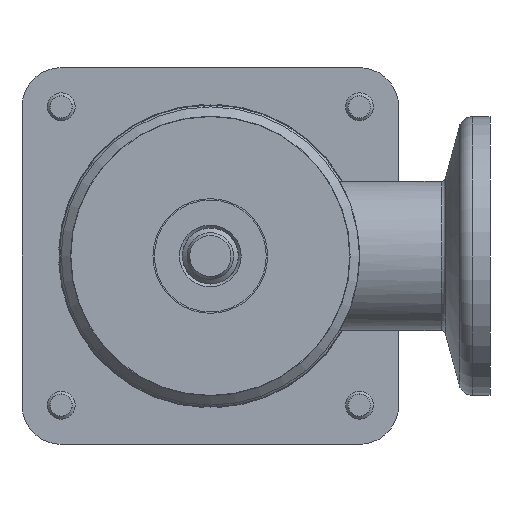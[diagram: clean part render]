
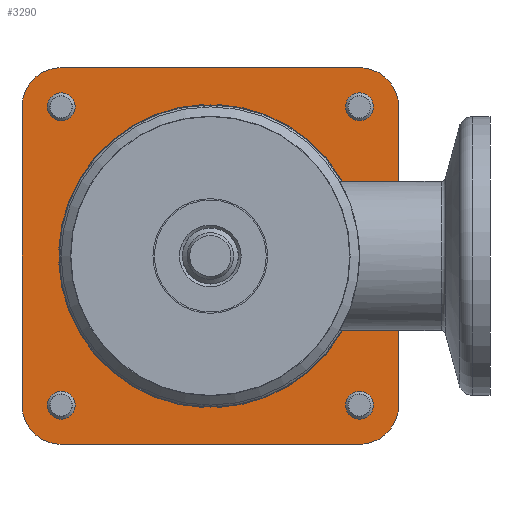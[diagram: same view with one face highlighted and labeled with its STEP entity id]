
A CAD part, front view. The second image highlights one B-rep face of the part: STEP entity #3290.
In plain terms, the highlighted planar face has unit normal (0, -1, 0) as drawn and (0, 1, 0) by its records, which use the part's own axes.
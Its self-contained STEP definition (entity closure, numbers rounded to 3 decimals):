
#1645=LINE('',#11788,#2192);
#1649=LINE('',#11797,#2196);
#1653=LINE('',#11809,#2200);
#1657=LINE('',#11818,#2204);
#1661=LINE('',#11830,#2208);
#1665=LINE('',#11839,#2212);
#1669=LINE('',#11851,#2216);
#1672=LINE('',#11867,#2219);
#1676=LINE('',#11877,#2223);
#1679=LINE('',#11885,#2226);
#1682=LINE('',#11893,#2229);
#1684=LINE('',#11898,#2231);
#2192=VECTOR('',#9681,1.);
#2196=VECTOR('',#9687,1.);
#2200=VECTOR('',#9699,1.);
#2204=VECTOR('',#9705,1.);
#2208=VECTOR('',#9717,1.);
#2212=VECTOR('',#9723,1.);
#2216=VECTOR('',#9735,1.);
#2219=VECTOR('',#9758,1.);
#2223=VECTOR('',#9768,1.);
#2226=VECTOR('',#9777,1.);
#2229=VECTOR('',#9786,1.);
#2231=VECTOR('',#9794,1.);
#3012=PLANE('',#8866);
#3290=ADVANCED_FACE('',(#3908,#3909,#3910,#3911,#3912,#3913),#3012,.T.);
#3908=FACE_BOUND('',#4307,.T.);
#3909=FACE_BOUND('',#4308,.T.);
#3910=FACE_BOUND('',#4309,.T.);
#3911=FACE_BOUND('',#4310,.T.);
#3912=FACE_BOUND('',#4311,.T.);
#3913=FACE_BOUND('',#4312,.T.);
#4307=EDGE_LOOP('',(#5035));
#4308=EDGE_LOOP('',(#5036));
#4309=EDGE_LOOP('',(#5037));
#4310=EDGE_LOOP('',(#5038));
#4311=EDGE_LOOP('',(#5039,#5040,#5041,#5042,#5043,#5044,#5045,#5046));
#4312=EDGE_LOOP('',(#5047,#5048,#5049,#5050,#5051,#5052,#5053,#5054,#5055,
#5056,#5057,#5058,#5059,#5060,#5061,#5062));
#5035=ORIENTED_EDGE('',*,*,#7567,.F.);
#5036=ORIENTED_EDGE('',*,*,#7568,.F.);
#5037=ORIENTED_EDGE('',*,*,#7569,.F.);
#5038=ORIENTED_EDGE('',*,*,#7570,.F.);
#5039=ORIENTED_EDGE('',*,*,#7550,.T.);
#5040=ORIENTED_EDGE('',*,*,#7553,.T.);
#5041=ORIENTED_EDGE('',*,*,#7555,.T.);
#5042=ORIENTED_EDGE('',*,*,#7557,.T.);
#5043=ORIENTED_EDGE('',*,*,#7559,.T.);
#5044=ORIENTED_EDGE('',*,*,#7561,.T.);
#5045=ORIENTED_EDGE('',*,*,#7563,.T.);
#5046=ORIENTED_EDGE('',*,*,#7564,.T.);
#5047=ORIENTED_EDGE('',*,*,#7506,.T.);
#5048=ORIENTED_EDGE('',*,*,#7509,.T.);
#5049=ORIENTED_EDGE('',*,*,#7548,.T.);
#5050=ORIENTED_EDGE('',*,*,#7513,.T.);
#5051=ORIENTED_EDGE('',*,*,#7516,.T.);
#5052=ORIENTED_EDGE('',*,*,#7519,.T.);
#5053=ORIENTED_EDGE('',*,*,#7546,.T.);
#5054=ORIENTED_EDGE('',*,*,#7523,.T.);
#5055=ORIENTED_EDGE('',*,*,#7526,.T.);
#5056=ORIENTED_EDGE('',*,*,#7529,.T.);
#5057=ORIENTED_EDGE('',*,*,#7544,.T.);
#5058=ORIENTED_EDGE('',*,*,#7533,.T.);
#5059=ORIENTED_EDGE('',*,*,#7536,.T.);
#5060=ORIENTED_EDGE('',*,*,#7539,.T.);
#5061=ORIENTED_EDGE('',*,*,#7542,.T.);
#5062=ORIENTED_EDGE('',*,*,#7566,.T.);
#6808=VERTEX_POINT('',#11776);
#6811=VERTEX_POINT('',#11781);
#6813=VERTEX_POINT('',#11787);
#6814=VERTEX_POINT('',#11791);
#6817=VERTEX_POINT('',#11796);
#6819=VERTEX_POINT('',#11802);
#6821=VERTEX_POINT('',#11808);
#6822=VERTEX_POINT('',#11812);
#6825=VERTEX_POINT('',#11817);
#6827=VERTEX_POINT('',#11823);
#6829=VERTEX_POINT('',#11829);
#6830=VERTEX_POINT('',#11833);
#6833=VERTEX_POINT('',#11838);
#6835=VERTEX_POINT('',#11844);
#6837=VERTEX_POINT('',#11850);
#6839=VERTEX_POINT('',#11856);
#6840=VERTEX_POINT('',#11866);
#6841=VERTEX_POINT('',#11868);
#6842=VERTEX_POINT('',#11872);
#6843=VERTEX_POINT('',#11876);
#6844=VERTEX_POINT('',#11880);
#6845=VERTEX_POINT('',#11884);
#6846=VERTEX_POINT('',#11888);
#6847=VERTEX_POINT('',#11892);
#6848=VERTEX_POINT('',#11901);
#6849=VERTEX_POINT('',#11903);
#6850=VERTEX_POINT('',#11905);
#6851=VERTEX_POINT('',#11907);
#7506=EDGE_CURVE('',#6808,#6811,#8449,.T.);
#7509=EDGE_CURVE('',#6811,#6813,#1645,.T.);
#7513=EDGE_CURVE('',#6814,#6817,#1649,.T.);
#7516=EDGE_CURVE('',#6817,#6819,#8451,.T.);
#7519=EDGE_CURVE('',#6819,#6821,#1653,.T.);
#7523=EDGE_CURVE('',#6822,#6825,#1657,.T.);
#7526=EDGE_CURVE('',#6825,#6827,#8453,.T.);
#7529=EDGE_CURVE('',#6827,#6829,#1661,.T.);
#7533=EDGE_CURVE('',#6830,#6833,#1665,.T.);
#7536=EDGE_CURVE('',#6833,#6835,#8455,.T.);
#7539=EDGE_CURVE('',#6835,#6837,#1669,.T.);
#7542=EDGE_CURVE('',#6837,#6839,#8457,.T.);
#7544=EDGE_CURVE('',#6829,#6830,#8459,.T.);
#7546=EDGE_CURVE('',#6821,#6822,#8461,.T.);
#7548=EDGE_CURVE('',#6813,#6814,#8463,.T.);
#7550=EDGE_CURVE('',#6841,#6840,#1672,.T.);
#7553=EDGE_CURVE('',#6840,#6842,#8464,.T.);
#7555=EDGE_CURVE('',#6842,#6843,#1676,.T.);
#7557=EDGE_CURVE('',#6843,#6844,#8465,.T.);
#7559=EDGE_CURVE('',#6844,#6845,#1679,.T.);
#7561=EDGE_CURVE('',#6845,#6846,#8466,.T.);
#7563=EDGE_CURVE('',#6846,#6847,#1682,.T.);
#7564=EDGE_CURVE('',#6847,#6841,#8467,.T.);
#7566=EDGE_CURVE('',#6839,#6808,#1684,.T.);
#7567=EDGE_CURVE('',#6848,#6848,#8468,.T.);
#7568=EDGE_CURVE('',#6849,#6849,#8469,.T.);
#7569=EDGE_CURVE('',#6850,#6850,#8470,.T.);
#7570=EDGE_CURVE('',#6851,#6851,#8471,.T.);
#8449=CIRCLE('',#8822,16.1);
#8451=CIRCLE('',#8827,16.1);
#8453=CIRCLE('',#8832,16.1);
#8455=CIRCLE('',#8837,16.1);
#8457=CIRCLE('',#8841,16.275);
#8459=CIRCLE('',#8843,16.275);
#8461=CIRCLE('',#8845,16.275);
#8463=CIRCLE('',#8847,16.275);
#8464=CIRCLE('',#8850,4.2);
#8465=CIRCLE('',#8853,4.2);
#8466=CIRCLE('',#8856,4.2);
#8467=CIRCLE('',#8859,4.2);
#8468=CIRCLE('',#8862,1.5);
#8469=CIRCLE('',#8863,1.5);
#8470=CIRCLE('',#8864,1.5);
#8471=CIRCLE('',#8865,1.5);
#8822=AXIS2_PLACEMENT_3D('',#11782,#9675,#9676);
#8827=AXIS2_PLACEMENT_3D('',#11803,#9693,#9694);
#8832=AXIS2_PLACEMENT_3D('',#11824,#9711,#9712);
#8837=AXIS2_PLACEMENT_3D('',#11845,#9729,#9730);
#8841=AXIS2_PLACEMENT_3D('',#11857,#9741,#9742);
#8843=AXIS2_PLACEMENT_3D('',#11859,#9745,#9746);
#8845=AXIS2_PLACEMENT_3D('',#11861,#9749,#9750);
#8847=AXIS2_PLACEMENT_3D('',#11863,#9753,#9754);
#8850=AXIS2_PLACEMENT_3D('',#11873,#9763,#9764);
#8853=AXIS2_PLACEMENT_3D('',#11881,#9772,#9773);
#8856=AXIS2_PLACEMENT_3D('',#11889,#9781,#9782);
#8859=AXIS2_PLACEMENT_3D('',#11895,#9789,#9790);
#8862=AXIS2_PLACEMENT_3D('',#11900,#9797,#9798);
#8863=AXIS2_PLACEMENT_3D('',#11902,#9799,#9800);
#8864=AXIS2_PLACEMENT_3D('',#11904,#9801,#9802);
#8865=AXIS2_PLACEMENT_3D('',#11906,#9803,#9804);
#8866=AXIS2_PLACEMENT_3D('',#11908,#9805,#9806);
#9675=DIRECTION('',(0.,-1.,0.));
#9676=DIRECTION('',(0.,0.,1.));
#9681=DIRECTION('',(0.,0.,1.));
#9687=DIRECTION('',(1.,0.,0.));
#9693=DIRECTION('',(0.,-1.,0.));
#9694=DIRECTION('',(0.,0.,1.));
#9699=DIRECTION('',(-1.,0.,0.));
#9705=DIRECTION('',(0.,0.,1.));
#9711=DIRECTION('',(0.,-1.,0.));
#9712=DIRECTION('',(0.,0.,1.));
#9717=DIRECTION('',(0.,0.,-1.));
#9723=DIRECTION('',(-1.,0.,0.));
#9729=DIRECTION('',(0.,-1.,0.));
#9730=DIRECTION('',(0.,0.,1.));
#9735=DIRECTION('',(1.,0.,0.));
#9741=DIRECTION('',(0.,-1.,0.));
#9742=DIRECTION('',(0.,0.,1.));
#9745=DIRECTION('',(0.,-1.,0.));
#9746=DIRECTION('',(0.,0.,1.));
#9749=DIRECTION('',(0.,-1.,0.));
#9750=DIRECTION('',(0.,0.,1.));
#9753=DIRECTION('',(0.,-1.,0.));
#9754=DIRECTION('',(0.,0.,1.));
#9758=DIRECTION('',(0.,0.,-1.));
#9763=DIRECTION('',(0.,1.,0.));
#9764=DIRECTION('',(1.,0.,0.));
#9768=DIRECTION('',(-1.,0.,0.));
#9772=DIRECTION('',(0.,1.,0.));
#9773=DIRECTION('',(0.,0.,-1.));
#9777=DIRECTION('',(0.,0.,1.));
#9781=DIRECTION('',(0.,1.,0.));
#9782=DIRECTION('',(-1.,0.,0.));
#9786=DIRECTION('',(1.,0.,0.));
#9789=DIRECTION('',(0.,1.,0.));
#9790=DIRECTION('',(0.,0.,1.));
#9794=DIRECTION('',(0.,0.,-1.));
#9797=DIRECTION('',(0.,1.,0.));
#9798=DIRECTION('',(-1.,0.,0.));
#9799=DIRECTION('',(0.,1.,0.));
#9800=DIRECTION('',(-1.,0.,0.));
#9801=DIRECTION('',(0.,1.,0.));
#9802=DIRECTION('',(-1.,0.,0.));
#9803=DIRECTION('',(0.,1.,0.));
#9804=DIRECTION('',(-1.,0.,0.));
#9805=DIRECTION('',(0.,1.,0.));
#9806=DIRECTION('',(0.,0.,1.));
#11776=CARTESIAN_POINT('',(0.75,6.,16.083));
#11781=CARTESIAN_POINT('',(-0.75,6.,16.083));
#11782=CARTESIAN_POINT('',(0.,6.,0.));
#11787=CARTESIAN_POINT('',(-0.75,6.,16.258));
#11788=CARTESIAN_POINT('',(-0.75,6.,16.083));
#11791=CARTESIAN_POINT('',(-16.258,6.,0.75));
#11796=CARTESIAN_POINT('',(-16.083,6.,0.75));
#11797=CARTESIAN_POINT('',(-16.258,6.,0.75));
#11802=CARTESIAN_POINT('',(-16.083,6.,-0.75));
#11803=CARTESIAN_POINT('',(0.,6.,0.));
#11808=CARTESIAN_POINT('',(-16.258,6.,-0.75));
#11809=CARTESIAN_POINT('',(-16.083,6.,-0.75));
#11812=CARTESIAN_POINT('',(-0.75,6.,-16.258));
#11817=CARTESIAN_POINT('',(-0.75,6.,-16.083));
#11818=CARTESIAN_POINT('',(-0.75,6.,-16.258));
#11823=CARTESIAN_POINT('',(0.75,6.,-16.083));
#11824=CARTESIAN_POINT('',(0.,6.,0.));
#11829=CARTESIAN_POINT('',(0.75,6.,-16.258));
#11830=CARTESIAN_POINT('',(0.75,6.,-16.083));
#11833=CARTESIAN_POINT('',(16.258,6.,-0.75));
#11838=CARTESIAN_POINT('',(16.083,6.,-0.75));
#11839=CARTESIAN_POINT('',(16.258,6.,-0.75));
#11844=CARTESIAN_POINT('',(16.083,6.,0.75));
#11845=CARTESIAN_POINT('',(0.,6.,0.));
#11850=CARTESIAN_POINT('',(16.258,6.,0.75));
#11851=CARTESIAN_POINT('',(16.083,6.,0.75));
#11856=CARTESIAN_POINT('',(0.75,6.,16.258));
#11857=CARTESIAN_POINT('',(0.,6.,0.));
#11859=CARTESIAN_POINT('',(0.,6.,0.));
#11861=CARTESIAN_POINT('',(0.,6.,0.));
#11863=CARTESIAN_POINT('',(0.,6.,0.));
#11866=CARTESIAN_POINT('',(20.2,6.,-16.));
#11867=CARTESIAN_POINT('',(20.2,6.,16.));
#11868=CARTESIAN_POINT('',(20.2,6.,16.));
#11872=CARTESIAN_POINT('',(16.,6.,-20.2));
#11873=CARTESIAN_POINT('',(16.,6.,-16.));
#11876=CARTESIAN_POINT('',(-16.,6.,-20.2));
#11877=CARTESIAN_POINT('',(16.,6.,-20.2));
#11880=CARTESIAN_POINT('',(-20.2,6.,-16.));
#11881=CARTESIAN_POINT('',(-16.,6.,-16.));
#11884=CARTESIAN_POINT('',(-20.2,6.,16.));
#11885=CARTESIAN_POINT('',(-20.2,6.,-16.));
#11888=CARTESIAN_POINT('',(-16.,6.,20.2));
#11889=CARTESIAN_POINT('',(-16.,6.,16.));
#11892=CARTESIAN_POINT('',(16.,6.,20.2));
#11893=CARTESIAN_POINT('',(-16.,6.,20.2));
#11895=CARTESIAN_POINT('',(16.,6.,16.));
#11898=CARTESIAN_POINT('',(0.75,6.,16.258));
#11900=CARTESIAN_POINT('',(-16.,6.,16.));
#11901=CARTESIAN_POINT('',(-17.5,6.,16.));
#11902=CARTESIAN_POINT('',(16.,6.,-16.));
#11903=CARTESIAN_POINT('',(14.5,6.,-16.));
#11904=CARTESIAN_POINT('',(-16.,6.,-16.));
#11905=CARTESIAN_POINT('',(-17.5,6.,-16.));
#11906=CARTESIAN_POINT('',(16.,6.,16.));
#11907=CARTESIAN_POINT('',(14.5,6.,16.));
#11908=CARTESIAN_POINT('',(16.,6.,-16.));
